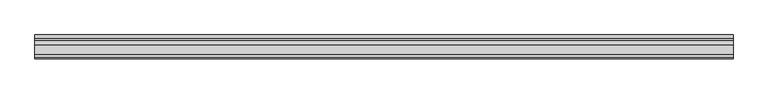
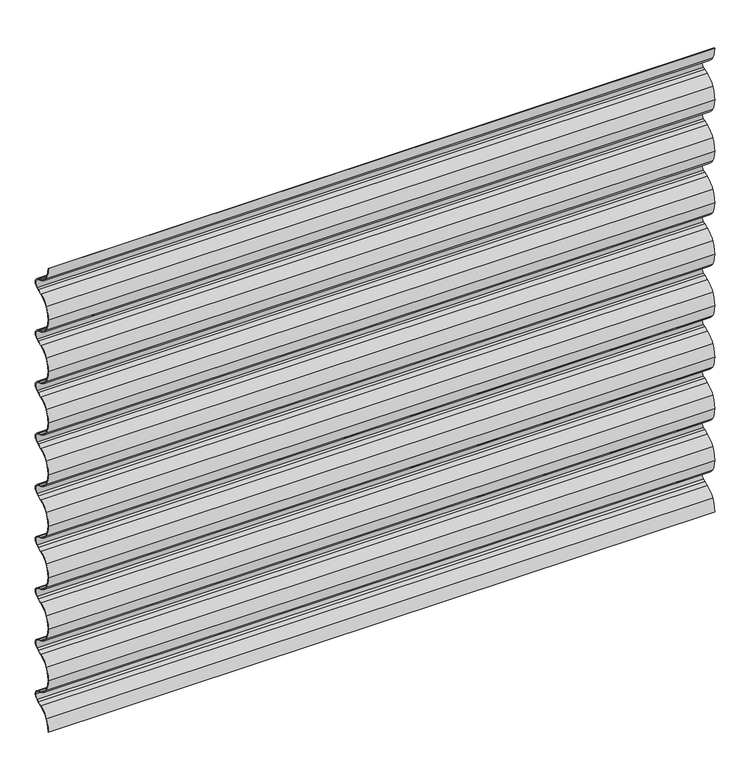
"""IFC4 building model written with IfcOpenShell, lengths in millimetres: plate geometry, Regolare Horizontal 801 : Regolare Horizontal 801."""

from ifc_helpers import new_model, si_unit, point, frame, frame_2d, origin, place, context, project, spatial, polyline, circle_curve, trimmed, segment, composite_curve, outline, extrude, source, transform, mapped, element, save


def plate_8fd588ca(model_context):
    return source(origin(), model_context, "Body", "SweptSolid", [
        extrude(outline(composite_curve([segment(trimmed(circle_curve(frame_2d((38.4503244, 0.0)), 37.4503244), [point((6.5021495, 19.5407501))], [point((1.0, 0.0))], True, "CARTESIAN"), True, "CONTINUOUS"), segment(polyline([(1.0, 0.0), (0.0, 0.0)]), True, "CONTINUOUS"), segment(trimmed(circle_curve(frame_2d((38.4503244, 0.0)), 38.4503244), [point((0.0, 0.0))], [point((5.6490681, 20.062528))], False, "CARTESIAN"), True, "CONTINUOUS"), segment(trimmed(circle_curve(frame_2d((32.6206681, 3.5656452)), 31.6166783), [point((5.6490681, 20.062528))], [point((20.878867, 32.9211295))], False, "CARTESIAN"), True, "CONTINUOUS"), segment(polyline([(20.878867, 32.9211295), (28.0423924, 35.7903512), (31.4771017, 37.4367049)]), True, "CONTINUOUS"), segment(trimmed(circle_curve(frame_2d((28.0791236, 44.5257445)), 7.8613445), [point((31.4771017, 37.4367049))], [point((35.9404682, 44.5257445))], True, "CARTESIAN"), True, "CONTINUOUS"), segment(trimmed(circle_curve(frame_2d((28.0791236, 44.5257445)), 7.8613445), [point((35.9404682, 44.5257445))], [point((31.4771017, 51.6147842))], True, "CARTESIAN"), True, "CONTINUOUS"), segment(polyline([(31.4771017, 51.6147842), (28.0423924, 53.2611379), (20.878867, 56.1303596)]), True, "CONTINUOUS"), segment(trimmed(circle_curve(frame_2d((32.6206681, 85.4858438)), 31.6166783), [point((20.878867, 56.1303596))], [point((5.6490681, 68.9889611))], False, "CARTESIAN"), True, "CONTINUOUS"), segment(trimmed(circle_curve(frame_2d((38.4503244, 89.0514891)), 38.4503244), [point((5.6490681, 68.9889611))], [point((0.0, 89.0514891))], False, "CARTESIAN"), True, "CONTINUOUS"), segment(trimmed(circle_curve(frame_2d((38.4503244, 89.0514891)), 38.4503244), [point((0.0, 89.0514891))], [point((5.6490681, 109.1140171))], False, "CARTESIAN"), True, "CONTINUOUS"), segment(trimmed(circle_curve(frame_2d((32.6206681, 92.6171343)), 31.6166783), [point((5.6490681, 109.1140171))], [point((20.878867, 121.9726185))], False, "CARTESIAN"), True, "CONTINUOUS"), segment(polyline([(20.878867, 121.9726185), (28.0423924, 124.8418403), (31.4771017, 126.488194)]), True, "CONTINUOUS"), segment(trimmed(circle_curve(frame_2d((28.0791236, 133.5772336)), 7.8613445), [point((31.4771017, 126.488194))], [point((31.4771017, 140.6662733))], True, "CARTESIAN"), True, "CONTINUOUS"), segment(polyline([(31.4771017, 140.6662733), (28.0423924, 142.312627), (20.878867, 145.1818487)]), True, "CONTINUOUS"), segment(trimmed(circle_curve(frame_2d((32.6206681, 174.5373329)), 31.6166783), [point((20.878867, 145.1818487))], [point((5.6490681, 158.0404502))], False, "CARTESIAN"), True, "CONTINUOUS"), segment(trimmed(circle_curve(frame_2d((38.4503244, 178.1029782)), 38.4503244), [point((5.6490681, 158.0404502))], [point((0.0, 178.1029782))], False, "CARTESIAN"), True, "CONTINUOUS"), segment(trimmed(circle_curve(frame_2d((38.4503244, 178.1029782)), 38.4503244), [point((0.0, 178.1029782))], [point((5.6490681, 198.1655062))], False, "CARTESIAN"), True, "CONTINUOUS"), segment(trimmed(circle_curve(frame_2d((32.6206681, 181.6686234)), 31.6166783), [point((5.6490681, 198.1655062))], [point((20.878867, 211.0241076))], False, "CARTESIAN"), True, "CONTINUOUS"), segment(polyline([(20.878867, 211.0241076), (28.0423924, 213.8933293), (31.4771017, 215.5396831)]), True, "CONTINUOUS"), segment(trimmed(circle_curve(frame_2d((28.0791236, 222.6287227)), 7.8613445), [point((31.4771017, 215.5396831))], [point((31.4771017, 229.7177623))], True, "CARTESIAN"), True, "CONTINUOUS"), segment(polyline([(31.4771017, 229.7177623), (28.0423924, 231.3641161), (20.878867, 234.2333378)]), True, "CONTINUOUS"), segment(trimmed(circle_curve(frame_2d((32.6206681, 263.588822)), 31.6166783), [point((20.878867, 234.2333378))], [point((5.6490681, 247.0919392))], False, "CARTESIAN"), True, "CONTINUOUS"), segment(trimmed(circle_curve(frame_2d((38.4503244, 267.1544672)), 38.4503244), [point((5.6490681, 247.0919392))], [point((0.0, 267.1544672))], False, "CARTESIAN"), True, "CONTINUOUS"), segment(trimmed(circle_curve(frame_2d((38.4503244, 267.1544672)), 38.4503244), [point((0.0, 267.1544672))], [point((5.6490681, 287.2169952))], False, "CARTESIAN"), True, "CONTINUOUS"), segment(trimmed(circle_curve(frame_2d((32.6206681, 270.7201125)), 31.6166783), [point((5.6490681, 287.2169952))], [point((20.878867, 300.0755967))], False, "CARTESIAN"), True, "CONTINUOUS"), segment(polyline([(20.878867, 300.0755967), (28.0423924, 302.9448184), (31.4771017, 304.5911721)]), True, "CONTINUOUS"), segment(trimmed(circle_curve(frame_2d((28.0791236, 311.6802118)), 7.8613445), [point((31.4771017, 304.5911721))], [point((31.4771017, 318.7692514))], True, "CARTESIAN"), True, "CONTINUOUS"), segment(polyline([(31.4771017, 318.7692514), (28.0423924, 320.4156051), (20.878867, 323.2848269)]), True, "CONTINUOUS"), segment(trimmed(circle_curve(frame_2d((32.6206681, 352.6403111)), 31.6166783), [point((20.878867, 323.2848269))], [point((5.6490681, 336.1434283))], False, "CARTESIAN"), True, "CONTINUOUS"), segment(trimmed(circle_curve(frame_2d((38.4503244, 356.2059563)), 38.4503244), [point((5.6490681, 336.1434283))], [point((0.0, 356.2059563))], False, "CARTESIAN"), True, "CONTINUOUS"), segment(trimmed(circle_curve(frame_2d((38.4503244, 356.2059563)), 38.4503244), [point((0.0, 356.2059563))], [point((5.6490681, 376.2684843))], False, "CARTESIAN"), True, "CONTINUOUS"), segment(trimmed(circle_curve(frame_2d((32.6206681, 359.7716016)), 31.6166783), [point((5.6490681, 376.2684843))], [point((20.878867, 389.1270858))], False, "CARTESIAN"), True, "CONTINUOUS"), segment(polyline([(20.878867, 389.1270858), (28.0423924, 391.9963075), (31.4771017, 393.6426612)]), True, "CONTINUOUS"), segment(trimmed(circle_curve(frame_2d((28.0791236, 400.7317009)), 7.8613445), [point((31.4771017, 393.6426612))], [point((31.4771017, 407.8207405))], True, "CARTESIAN"), True, "CONTINUOUS"), segment(polyline([(31.4771017, 407.8207405), (28.0423924, 409.4670942), (20.878867, 412.3363159)]), True, "CONTINUOUS"), segment(trimmed(circle_curve(frame_2d((32.6206681, 441.6918002)), 31.6166783), [point((20.878867, 412.3363159))], [point((5.6490681, 425.1949174))], False, "CARTESIAN"), True, "CONTINUOUS"), segment(trimmed(circle_curve(frame_2d((38.4503244, 445.2574454)), 38.4503244), [point((5.6490681, 425.1949174))], [point((0.0, 445.2574454))], False, "CARTESIAN"), True, "CONTINUOUS"), segment(trimmed(circle_curve(frame_2d((38.4503244, 445.2574454)), 38.4503244), [point((0.0, 445.2574454))], [point((5.6490681, 465.3199734))], False, "CARTESIAN"), True, "CONTINUOUS"), segment(trimmed(circle_curve(frame_2d((32.6206681, 448.8230907)), 31.6166783), [point((5.6490681, 465.3199734))], [point((20.878867, 478.1785749))], False, "CARTESIAN"), True, "CONTINUOUS"), segment(polyline([(20.878867, 478.1785749), (28.0423924, 481.0477966), (31.4771017, 482.6941503)]), True, "CONTINUOUS"), segment(trimmed(circle_curve(frame_2d((28.0791236, 489.7831899)), 7.8613445), [point((31.4771017, 482.6941503))], [point((31.4771017, 496.8722296))], True, "CARTESIAN"), True, "CONTINUOUS"), segment(polyline([(31.4771017, 496.8722296), (28.0423924, 498.5185833), (20.878867, 501.387805)]), True, "CONTINUOUS"), segment(trimmed(circle_curve(frame_2d((32.6206681, 530.7432892)), 31.6166783), [point((20.878867, 501.387805))], [point((5.6490681, 514.2464065))], False, "CARTESIAN"), True, "CONTINUOUS"), segment(trimmed(circle_curve(frame_2d((38.4503244, 534.3089345)), 38.4503244), [point((5.6490681, 514.2464065))], [point((0.0, 534.3089345))], False, "CARTESIAN"), True, "CONTINUOUS"), segment(trimmed(circle_curve(frame_2d((38.4503244, 534.3089345)), 38.4503244), [point((0.0, 534.3089345))], [point((5.6490681, 554.3714625))], False, "CARTESIAN"), True, "CONTINUOUS"), segment(trimmed(circle_curve(frame_2d((32.6206681, 537.8745797)), 31.6166783), [point((5.6490681, 554.3714625))], [point((20.878867, 567.2300639))], False, "CARTESIAN"), True, "CONTINUOUS"), segment(polyline([(20.878867, 567.2300639), (28.0423924, 570.0992857), (31.4771017, 571.7456394)]), True, "CONTINUOUS"), segment(trimmed(circle_curve(frame_2d((28.0791236, 578.834679)), 7.8613445), [point((31.4771017, 571.7456394))], [point((31.4771017, 585.9237187))], True, "CARTESIAN"), True, "CONTINUOUS"), segment(polyline([(31.4771017, 585.9237187), (28.0423924, 587.5700724), (20.878867, 590.4392941)]), True, "CONTINUOUS"), segment(trimmed(circle_curve(frame_2d((32.6206681, 619.7947783)), 31.6166783), [point((20.878867, 590.4392941))], [point((5.6490681, 603.2978956))], False, "CARTESIAN"), True, "CONTINUOUS"), segment(trimmed(circle_curve(frame_2d((38.4503244, 623.3604236)), 38.4503244), [point((5.6490681, 603.2978956))], [point((0.0, 623.3604236))], False, "CARTESIAN"), True, "CONTINUOUS"), segment(trimmed(circle_curve(frame_2d((38.4503244, 623.3604236)), 38.4503244), [point((0.0, 623.3604236))], [point((5.6490681, 643.4229516))], False, "CARTESIAN"), True, "CONTINUOUS"), segment(trimmed(circle_curve(frame_2d((32.6206681, 626.9260688)), 31.6166783), [point((5.6490681, 643.4229516))], [point((20.878867, 656.281553))], False, "CARTESIAN"), True, "CONTINUOUS"), segment(polyline([(20.878867, 656.281553), (28.0423924, 659.1507748), (31.4771017, 660.7971285)]), True, "CONTINUOUS"), segment(trimmed(circle_curve(frame_2d((28.0791236, 667.8861681)), 7.8613445), [point((31.4771017, 660.7971285))], [point((31.4771017, 674.9752077))], True, "CARTESIAN"), True, "CONTINUOUS"), segment(polyline([(31.4771017, 674.9752077), (28.0423924, 676.6215615), (20.878867, 679.4907832)]), True, "CONTINUOUS"), segment(trimmed(circle_curve(frame_2d((32.6206681, 708.8462674)), 31.6166783), [point((20.878867, 679.4907832))], [point((5.6490681, 692.3493846))], False, "CARTESIAN"), True, "CONTINUOUS"), segment(trimmed(circle_curve(frame_2d((38.4503244, 712.4119126)), 38.4503244), [point((5.6490681, 692.3493846))], [point((0.0, 712.4119126))], False, "CARTESIAN"), True, "CONTINUOUS"), segment(trimmed(circle_curve(frame_2d((38.4503244, 712.4119126)), 38.4503244), [point((0.0, 712.4119126))], [point((5.6490681, 732.4744406))], False, "CARTESIAN"), True, "CONTINUOUS"), segment(trimmed(circle_curve(frame_2d((32.6206681, 715.9775579)), 31.6166783), [point((5.6490681, 732.4744406))], [point((20.878867, 745.3330421))], False, "CARTESIAN"), True, "CONTINUOUS"), segment(polyline([(20.878867, 745.3330421), (28.0423924, 748.2022638), (31.4771017, 749.8486175)]), True, "CONTINUOUS"), segment(trimmed(circle_curve(frame_2d((28.0791236, 756.9376572)), 7.8613445), [point((31.4771017, 749.8486175))], [point((31.4771017, 764.0266968))], True, "CARTESIAN"), True, "CONTINUOUS"), segment(polyline([(31.4771017, 764.0266968), (28.0423924, 765.6730505), (20.878867, 768.5422723)]), True, "CONTINUOUS"), segment(trimmed(circle_curve(frame_2d((32.6206681, 797.8977565)), 31.6166783), [point((20.878867, 768.5422723))], [point((5.6490681, 781.4008737))], False, "CARTESIAN"), True, "CONTINUOUS"), segment(trimmed(circle_curve(frame_2d((38.4503244, 801.4634017)), 38.4503244), [point((5.6490681, 781.4008737))], [point((0.0, 801.4634017))], False, "CARTESIAN"), True, "CONTINUOUS"), segment(polyline([(0.0, 801.4634017), (1.0, 801.4634017)]), True, "CONTINUOUS"), segment(trimmed(circle_curve(frame_2d((38.4503244, 801.4634017)), 37.4503244), [point((1.0, 801.4634017))], [point((6.5021495, 781.9226516))], True, "CARTESIAN"), True, "CONTINUOUS"), segment(trimmed(circle_curve(frame_2d((32.6206681, 797.8977565)), 30.6166783), [point((6.5021495, 781.9226516))], [point((21.2504634, 769.4706666))], True, "CARTESIAN"), True, "CONTINUOUS"), segment(polyline([(21.2504634, 769.4706666), (28.4448583, 766.5890807), (31.9093405, 764.928456)]), True, "CONTINUOUS"), segment(trimmed(circle_curve(frame_2d((28.0791236, 756.9376572)), 8.8613445), [point((31.9093405, 764.928456))], [point((31.9093405, 748.9468584))], False, "CARTESIAN"), True, "CONTINUOUS"), segment(polyline([(31.9093405, 748.9468584), (28.4448583, 747.2862336), (21.2504634, 744.4046477)]), True, "CONTINUOUS"), segment(trimmed(circle_curve(frame_2d((32.6206681, 715.9775579)), 30.6166783), [point((21.2504634, 744.4046477))], [point((6.5021495, 731.9526628))], True, "CARTESIAN"), True, "CONTINUOUS"), segment(trimmed(circle_curve(frame_2d((38.4503244, 712.4119126)), 37.4503244), [point((6.5021495, 731.9526628))], [point((1.0, 712.4119126))], True, "CARTESIAN"), True, "CONTINUOUS"), segment(trimmed(circle_curve(frame_2d((38.4503244, 712.4119126)), 37.4503244), [point((1.0, 712.4119126))], [point((6.5021495, 692.8711625))], True, "CARTESIAN"), True, "CONTINUOUS"), segment(trimmed(circle_curve(frame_2d((32.6206681, 708.8462674)), 30.6166783), [point((6.5021495, 692.8711625))], [point((21.2504634, 680.4191776))], True, "CARTESIAN"), True, "CONTINUOUS"), segment(polyline([(21.2504634, 680.4191776), (28.4448583, 677.5375917), (31.9093405, 675.8769669)]), True, "CONTINUOUS"), segment(trimmed(circle_curve(frame_2d((28.0791236, 667.8861681)), 8.8613445), [point((31.9093405, 675.8769669))], [point((31.9093405, 659.8953693))], False, "CARTESIAN"), True, "CONTINUOUS"), segment(polyline([(31.9093405, 659.8953693), (28.4448583, 658.2347446), (21.2504634, 655.3531587)]), True, "CONTINUOUS"), segment(trimmed(circle_curve(frame_2d((32.6206681, 626.9260688)), 30.6166783), [point((21.2504634, 655.3531587))], [point((6.5021495, 642.9011737))], True, "CARTESIAN"), True, "CONTINUOUS"), segment(trimmed(circle_curve(frame_2d((38.4503244, 623.3604236)), 37.4503244), [point((6.5021495, 642.9011737))], [point((1.0, 623.3604236))], True, "CARTESIAN"), True, "CONTINUOUS"), segment(trimmed(circle_curve(frame_2d((38.4503244, 623.3604236)), 37.4503244), [point((1.0, 623.3604236))], [point((6.5021495, 603.8196734))], True, "CARTESIAN"), True, "CONTINUOUS"), segment(trimmed(circle_curve(frame_2d((32.6206681, 619.7947783)), 30.6166783), [point((6.5021495, 603.8196734))], [point((21.2504634, 591.3676885))], True, "CARTESIAN"), True, "CONTINUOUS"), segment(polyline([(21.2504634, 591.3676885), (28.4448583, 588.4861026), (31.9093405, 586.8254778)]), True, "CONTINUOUS"), segment(trimmed(circle_curve(frame_2d((28.0791236, 578.834679)), 8.8613445), [point((31.9093405, 586.8254778))], [point((31.9093405, 570.8438802))], False, "CARTESIAN"), True, "CONTINUOUS"), segment(polyline([(31.9093405, 570.8438802), (28.4448583, 569.1832555), (21.2504634, 566.3016696)]), True, "CONTINUOUS"), segment(trimmed(circle_curve(frame_2d((32.6206681, 537.8745797)), 30.6166783), [point((21.2504634, 566.3016696))], [point((6.5021495, 553.8496846))], True, "CARTESIAN"), True, "CONTINUOUS"), segment(trimmed(circle_curve(frame_2d((38.4503244, 534.3089345)), 37.4503244), [point((6.5021495, 553.8496846))], [point((1.0, 534.3089345))], True, "CARTESIAN"), True, "CONTINUOUS"), segment(trimmed(circle_curve(frame_2d((38.4503244, 534.3089345)), 37.4503244), [point((1.0, 534.3089345))], [point((6.5021495, 514.7681843))], True, "CARTESIAN"), True, "CONTINUOUS"), segment(trimmed(circle_curve(frame_2d((32.6206681, 530.7432892)), 30.6166783), [point((6.5021495, 514.7681843))], [point((21.2504634, 502.3161994))], True, "CARTESIAN"), True, "CONTINUOUS"), segment(polyline([(21.2504634, 502.3161994), (28.4448583, 499.4346135), (31.9093405, 497.7739888)]), True, "CONTINUOUS"), segment(trimmed(circle_curve(frame_2d((28.0791236, 489.7831899)), 8.8613445), [point((31.9093405, 497.7739888))], [point((31.9093405, 481.7923911))], False, "CARTESIAN"), True, "CONTINUOUS"), segment(polyline([(31.9093405, 481.7923911), (28.4448583, 480.1317664), (21.2504634, 477.2501805)]), True, "CONTINUOUS"), segment(trimmed(circle_curve(frame_2d((32.6206681, 448.8230907)), 30.6166783), [point((21.2504634, 477.2501805))], [point((6.5021495, 464.7981955))], True, "CARTESIAN"), True, "CONTINUOUS"), segment(trimmed(circle_curve(frame_2d((38.4503244, 445.2574454)), 37.4503244), [point((6.5021495, 464.7981955))], [point((1.0, 445.2574454))], True, "CARTESIAN"), True, "CONTINUOUS"), segment(trimmed(circle_curve(frame_2d((38.4503244, 445.2574454)), 37.4503244), [point((1.0, 445.2574454))], [point((6.5021495, 425.7166953))], True, "CARTESIAN"), True, "CONTINUOUS"), segment(trimmed(circle_curve(frame_2d((32.6206681, 441.6918002)), 30.6166783), [point((6.5021495, 425.7166953))], [point((21.2504634, 413.2647103))], True, "CARTESIAN"), True, "CONTINUOUS"), segment(polyline([(21.2504634, 413.2647103), (28.4448583, 410.3831244), (31.9093405, 408.7224997)]), True, "CONTINUOUS"), segment(trimmed(circle_curve(frame_2d((28.0791236, 400.7317009)), 8.8613445), [point((31.9093405, 408.7224997))], [point((31.9093405, 392.740902))], False, "CARTESIAN"), True, "CONTINUOUS"), segment(polyline([(31.9093405, 392.740902), (28.4448583, 391.0802773), (21.2504634, 388.1986914)]), True, "CONTINUOUS"), segment(trimmed(circle_curve(frame_2d((32.6206681, 359.7716016)), 30.6166783), [point((21.2504634, 388.1986914))], [point((6.5021495, 375.7467065))], True, "CARTESIAN"), True, "CONTINUOUS"), segment(trimmed(circle_curve(frame_2d((38.4503244, 356.2059563)), 37.4503244), [point((6.5021495, 375.7467065))], [point((1.0, 356.2059563))], True, "CARTESIAN"), True, "CONTINUOUS"), segment(trimmed(circle_curve(frame_2d((38.4503244, 356.2059563)), 37.4503244), [point((1.0, 356.2059563))], [point((6.5021495, 336.6652062))], True, "CARTESIAN"), True, "CONTINUOUS"), segment(trimmed(circle_curve(frame_2d((32.6206681, 352.6403111)), 30.6166783), [point((6.5021495, 336.6652062))], [point((21.2504634, 324.2132212))], True, "CARTESIAN"), True, "CONTINUOUS"), segment(polyline([(21.2504634, 324.2132212), (28.4448583, 321.3316353), (31.9093405, 319.6710106)]), True, "CONTINUOUS"), segment(trimmed(circle_curve(frame_2d((28.0791236, 311.6802118)), 8.8613445), [point((31.9093405, 319.6710106))], [point((31.9093405, 303.689413))], False, "CARTESIAN"), True, "CONTINUOUS"), segment(polyline([(31.9093405, 303.689413), (28.4448583, 302.0287882), (21.2504634, 299.1472023)]), True, "CONTINUOUS"), segment(trimmed(circle_curve(frame_2d((32.6206681, 270.7201125)), 30.6166783), [point((21.2504634, 299.1472023))], [point((6.5021495, 286.6952174))], True, "CARTESIAN"), True, "CONTINUOUS"), segment(trimmed(circle_curve(frame_2d((38.4503244, 267.1544672)), 37.4503244), [point((6.5021495, 286.6952174))], [point((1.0, 267.1544672))], True, "CARTESIAN"), True, "CONTINUOUS"), segment(trimmed(circle_curve(frame_2d((38.4503244, 267.1544672)), 37.4503244), [point((1.0, 267.1544672))], [point((6.5021495, 247.6137171))], True, "CARTESIAN"), True, "CONTINUOUS"), segment(trimmed(circle_curve(frame_2d((32.6206681, 263.588822)), 30.6166783), [point((6.5021495, 247.6137171))], [point((21.2504634, 235.1617322))], True, "CARTESIAN"), True, "CONTINUOUS"), segment(polyline([(21.2504634, 235.1617322), (28.4448583, 232.2801463), (31.9093405, 230.6195215)]), True, "CONTINUOUS"), segment(trimmed(circle_curve(frame_2d((28.0791236, 222.6287227)), 8.8613445), [point((31.9093405, 230.6195215))], [point((31.9093405, 214.6379239))], False, "CARTESIAN"), True, "CONTINUOUS"), segment(polyline([(31.9093405, 214.6379239), (28.4448583, 212.9772992), (21.2504634, 210.0957133)]), True, "CONTINUOUS"), segment(trimmed(circle_curve(frame_2d((32.6206681, 181.6686234)), 30.6166783), [point((21.2504634, 210.0957133))], [point((6.5021495, 197.6437283))], True, "CARTESIAN"), True, "CONTINUOUS"), segment(trimmed(circle_curve(frame_2d((38.4503244, 178.1029782)), 37.4503244), [point((6.5021495, 197.6437283))], [point((1.0, 178.1029782))], True, "CARTESIAN"), True, "CONTINUOUS"), segment(trimmed(circle_curve(frame_2d((38.4503244, 178.1029782)), 37.4503244), [point((1.0, 178.1029782))], [point((6.5021495, 158.562228))], True, "CARTESIAN"), True, "CONTINUOUS"), segment(trimmed(circle_curve(frame_2d((32.6206681, 174.5373329)), 30.6166783), [point((6.5021495, 158.562228))], [point((21.2504634, 146.1102431))], True, "CARTESIAN"), True, "CONTINUOUS"), segment(polyline([(21.2504634, 146.1102431), (28.4448583, 143.2286572), (31.9093405, 141.5680324)]), True, "CONTINUOUS"), segment(trimmed(circle_curve(frame_2d((28.0791236, 133.5772336)), 8.8613445), [point((31.9093405, 141.5680324))], [point((31.9093405, 125.5864348))], False, "CARTESIAN"), True, "CONTINUOUS"), segment(polyline([(31.9093405, 125.5864348), (28.4448583, 123.9258101), (21.2504634, 121.0442242)]), True, "CONTINUOUS"), segment(trimmed(circle_curve(frame_2d((32.6206681, 92.6171343)), 30.6166783), [point((21.2504634, 121.0442242))], [point((6.5021495, 108.5922392))], True, "CARTESIAN"), True, "CONTINUOUS"), segment(trimmed(circle_curve(frame_2d((38.4503244, 89.0514891)), 37.4503244), [point((6.5021495, 108.5922392))], [point((1.0, 89.0514891))], True, "CARTESIAN"), True, "CONTINUOUS"), segment(trimmed(circle_curve(frame_2d((38.4503244, 89.0514891)), 37.4503244), [point((1.0, 89.0514891))], [point((6.5021495, 69.5107389))], True, "CARTESIAN"), True, "CONTINUOUS"), segment(trimmed(circle_curve(frame_2d((32.6206681, 85.4858438)), 30.6166783), [point((6.5021495, 69.5107389))], [point((21.2504634, 57.058754))], True, "CARTESIAN"), True, "CONTINUOUS"), segment(polyline([(21.2504634, 57.058754), (28.4448583, 54.1771681), (31.9093405, 52.5165434)]), True, "CONTINUOUS"), segment(trimmed(circle_curve(frame_2d((28.0791236, 44.5257445)), 8.8613445), [point((31.9093405, 52.5165434))], [point((36.9404682, 44.5257445))], False, "CARTESIAN"), True, "CONTINUOUS"), segment(trimmed(circle_curve(frame_2d((28.0791236, 44.5257445)), 8.8613445), [point((36.9404682, 44.5257445))], [point((31.9093405, 36.5349457))], False, "CARTESIAN"), True, "CONTINUOUS"), segment(polyline([(31.9093405, 36.5349457), (28.4448583, 34.874321), (21.2504634, 31.9927351)]), True, "CONTINUOUS"), segment(trimmed(circle_curve(frame_2d((32.6206681, 3.5656452)), 30.6166783), [point((21.2504634, 31.9927351))], [point((6.5021495, 19.5407501))], True, "CARTESIAN"), True, "CONTINUOUS")], self_intersect=False)), frame((-544.5, 0.0, 0.0), z_axis=(1.0, 0.0, 0.0), x_axis=(0.0, 1.0, 0.0)), (0.0, 0.0, 1.0), 1089.0),
    ])


if __name__ == "__main__":
    model = new_model("IFC4")
    model_context = context("Model", 3, world=origin())
    ifc_project = project(units=[si_unit("LENGTHUNIT", "METRE", prefix="MILLI")], contexts=[model_context])
    site = spatial("IfcSite", under=ifc_project)
    building = spatial("IfcBuilding", under=site)
    placement = place(None, origin())
    plate_shape = plate_8fd588ca(model_context)
    element("IfcPlate", 1, ObjectType="Regolare Horizontal 801 : Regolare Horizontal 801", at=placement, inside=building, context=model_context, shape_type="MappedRepresentation", body=[
        mapped(plate_shape, transform((0.0, 0.0, 0.0), x_axis=(1.0, 0.0, 0.0), y_axis=(0.0, 1.0, 0.0), z_axis=(0.0, 0.0, 1.0))),
    ])
    save(model, "model.ifc")
